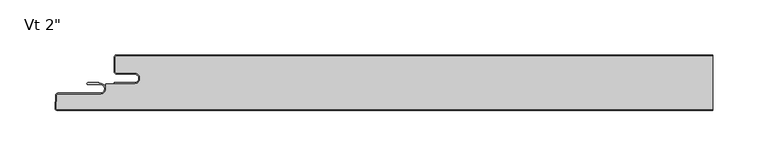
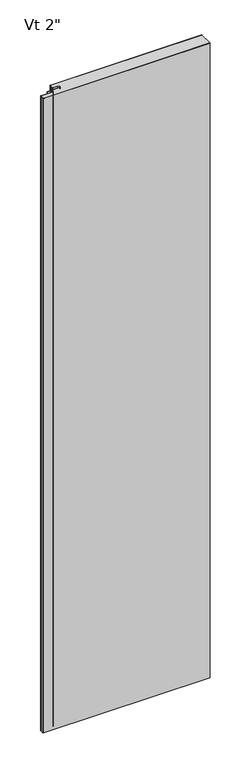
"""IFC4 building model written with IfcOpenShell, lengths in millimetres: plate geometry."""

from ifc_helpers import new_model, si_unit, point, frame_2d, origin, origin_with_axes, place, context, project, spatial, polyline, circle_curve, trimmed, segment, composite_curve, outline, extrude, source, transform, mapped, element, save


def plate_a1f4ee09(model_context):
    return source(origin(), model_context, "Body", "SweptSolid", [
        extrude(outline(composite_curve([segment(polyline([(-269.3249998, -1.0), (272.4999998, -1.0), (272.4999998, -49.8), (-323.1719359, -49.8)]), True, "CONTINUOUS"), segment(trimmed(circle_curve(frame_2d((-323.1719359, -48.41875)), 1.38125), [point((-323.1719359, -49.8))], [point((-324.551293, -48.346461))], False, "CARTESIAN"), True, "CONTINUOUS"), segment(polyline([(-324.551293, -48.346461), (-323.9689115, -37.233961)]), True, "CONTINUOUS"), segment(trimmed(circle_curve(frame_2d((-322.5895545, -37.30625)), 1.38125), [point((-323.9689115, -37.233961))], [point((-322.5895545, -35.925))], False, "CARTESIAN"), True, "CONTINUOUS"), segment(polyline([(-322.5895545, -35.925), (-284.4062498, -35.925)]), True, "CONTINUOUS"), segment(trimmed(circle_curve(frame_2d((-284.4062498, -30.95625)), 4.96875), [point((-284.4062498, -35.925))], [point((-279.4374998, -30.95625))], True, "CARTESIAN"), True, "CONTINUOUS"), segment(polyline([(-279.4374998, -30.95625), (-279.4374998, -26.4), (-253.4499998, -26.4)]), True, "CONTINUOUS"), segment(trimmed(circle_curve(frame_2d((-253.4499998, -21.43125)), 4.96875), [point((-253.4499998, -26.4))], [point((-253.4499998, -16.4625))], True, "CARTESIAN"), True, "CONTINUOUS"), segment(polyline([(-253.4499998, -16.4625), (-269.3249998, -16.4625)]), True, "CONTINUOUS"), segment(trimmed(circle_curve(frame_2d((-269.3249998, -15.08125)), 1.38125), [point((-269.3249998, -16.4625))], [point((-270.7062498, -15.08125))], False, "CARTESIAN"), True, "CONTINUOUS"), segment(polyline([(-270.7062498, -15.08125), (-270.7062498, -2.38125)]), True, "CONTINUOUS"), segment(trimmed(circle_curve(frame_2d((-269.3249998, -2.38125)), 1.38125), [point((-270.7062498, -2.38125))], [point((-269.3249998, -1.0))], False, "CARTESIAN"), True, "CONTINUOUS")], self_intersect=False)), origin_with_axes(), (0.0, 0.0, 1.0), 2400.0),
        extrude(outline(composite_curve([segment(polyline([(-271.7062498, -25.4), (-253.4499998, -25.4)]), True, "CONTINUOUS"), segment(trimmed(circle_curve(frame_2d((-253.4499998, -21.43125)), 3.96875), [point((-253.4499998, -25.4))], [point((-253.4499998, -17.4625))], True, "CARTESIAN"), True, "CONTINUOUS"), segment(polyline([(-253.4499998, -17.4625), (-269.3249998, -17.4625)]), True, "CONTINUOUS"), segment(trimmed(circle_curve(frame_2d((-269.3249998, -15.08125)), 2.38125), [point((-269.3249998, -17.4625))], [point((-271.7062498, -15.08125))], False, "CARTESIAN"), True, "CONTINUOUS"), segment(polyline([(-271.7062498, -15.08125), (-271.7062498, -2.38125)]), True, "CONTINUOUS"), segment(trimmed(circle_curve(frame_2d((-269.3249998, -2.38125)), 2.38125), [point((-271.7062498, -2.38125))], [point((-269.3249998, 0.0))], False, "CARTESIAN"), True, "CONTINUOUS"), segment(polyline([(-269.3249998, 0.0), (272.4999998, 0.0), (272.4999998, -1.0), (-269.3249998, -1.0)]), True, "CONTINUOUS"), segment(trimmed(circle_curve(frame_2d((-269.3249998, -2.38125)), 1.38125), [point((-269.3249998, -1.0))], [point((-270.7062498, -2.38125))], True, "CARTESIAN"), True, "CONTINUOUS"), segment(polyline([(-270.7062498, -2.38125), (-270.7062498, -15.08125)]), True, "CONTINUOUS"), segment(trimmed(circle_curve(frame_2d((-269.3249998, -15.08125)), 1.38125), [point((-270.7062498, -15.08125))], [point((-269.3249998, -16.4625))], True, "CARTESIAN"), True, "CONTINUOUS"), segment(polyline([(-269.3249998, -16.4625), (-253.4499998, -16.4625)]), True, "CONTINUOUS"), segment(trimmed(circle_curve(frame_2d((-253.4499998, -21.43125)), 4.96875), [point((-253.4499998, -16.4625))], [point((-253.4499998, -26.4))], False, "CARTESIAN"), True, "CONTINUOUS"), segment(polyline([(-253.4499998, -26.4), (-271.7062498, -26.4), (-271.7062498, -25.4)]), True, "CONTINUOUS")], self_intersect=False)), origin_with_axes(), (0.0, 0.0, 1.0), 2400.0),
        extrude(outline(composite_curve([segment(polyline([(-295.7314548, -25.4), (-286.0080173, -25.4), (-286.0080173, -26.19375), (-284.4205173, -25.9875)]), True, "CONTINUOUS"), segment(trimmed(circle_curve(frame_2d((-284.4205173, -30.95625)), 4.96875), [point((-284.4205173, -25.9875))], [point((-284.4205173, -35.925))], False, "CARTESIAN"), True, "CONTINUOUS"), segment(polyline([(-284.4205173, -35.925), (-322.6038219, -35.925)]), True, "CONTINUOUS"), segment(trimmed(circle_curve(frame_2d((-322.6038219, -37.30625)), 1.38125), [point((-322.6038219, -35.925))], [point((-323.983179, -37.233961))], True, "CARTESIAN"), True, "CONTINUOUS"), segment(polyline([(-323.983179, -37.233961), (-324.5655604, -48.346461)]), True, "CONTINUOUS"), segment(trimmed(circle_curve(frame_2d((-323.1862034, -48.41875)), 1.38125), [point((-324.5655604, -48.346461))], [point((-323.1862034, -49.8))], True, "CARTESIAN"), True, "CONTINUOUS"), segment(polyline([(-323.1862034, -49.8), (272.4999998, -49.8), (272.4999998, -50.8), (-323.1862034, -50.8)]), True, "CONTINUOUS"), segment(trimmed(circle_curve(frame_2d((-323.1862034, -48.41875)), 2.38125), [point((-323.1862034, -50.8))], [point((-325.5641899, -48.294125))], False, "CARTESIAN"), True, "CONTINUOUS"), segment(polyline([(-325.5641899, -48.294125), (-324.9818085, -37.181625)]), True, "CONTINUOUS"), segment(trimmed(circle_curve(frame_2d((-322.6038219, -37.30625)), 2.38125), [point((-324.9818085, -37.181625))], [point((-322.6038219, -34.925))], False, "CARTESIAN"), True, "CONTINUOUS"), segment(polyline([(-322.6038219, -34.925), (-284.4205173, -34.925)]), True, "CONTINUOUS"), segment(trimmed(circle_curve(frame_2d((-284.4205173, -30.95625)), 3.96875), [point((-284.4205173, -34.925))], [point((-284.4205173, -26.9875))], True, "CARTESIAN"), True, "CONTINUOUS"), segment(polyline([(-284.4205173, -26.9875), (-295.7314548, -26.9875)]), True, "CONTINUOUS"), segment(trimmed(circle_curve(frame_2d((-295.7314548, -26.19375)), 0.79375), [point((-295.7314548, -26.9875))], [point((-295.7314548, -25.4))], False, "CARTESIAN"), True, "CONTINUOUS")], self_intersect=False)), origin_with_axes(), (0.0, 0.0, 1.0), 2400.0),
    ])


if __name__ == "__main__":
    model = new_model("IFC4")
    model_context = context("Model", 3, world=origin())
    ifc_project = project(units=[si_unit("LENGTHUNIT", "METRE", prefix="MILLI")], contexts=[model_context])
    site = spatial("IfcSite", under=ifc_project)
    building = spatial("IfcBuilding", under=site)
    placement = place(None, origin())
    plate_shape = plate_a1f4ee09(model_context)
    element("IfcPlate", 1, ObjectType="KIP-36-DWTR-R19-CP-Vt-F : Vt 2\"", at=placement, inside=building, context=model_context, shape_type="MappedRepresentation", body=[
        mapped(plate_shape, transform((0.0, 0.0, 0.0), x_axis=(1.0, 0.0, 0.0), y_axis=(0.0, 1.0, 0.0), z_axis=(0.0, 0.0, 1.0))),
    ])
    save(model, "model.ifc")
